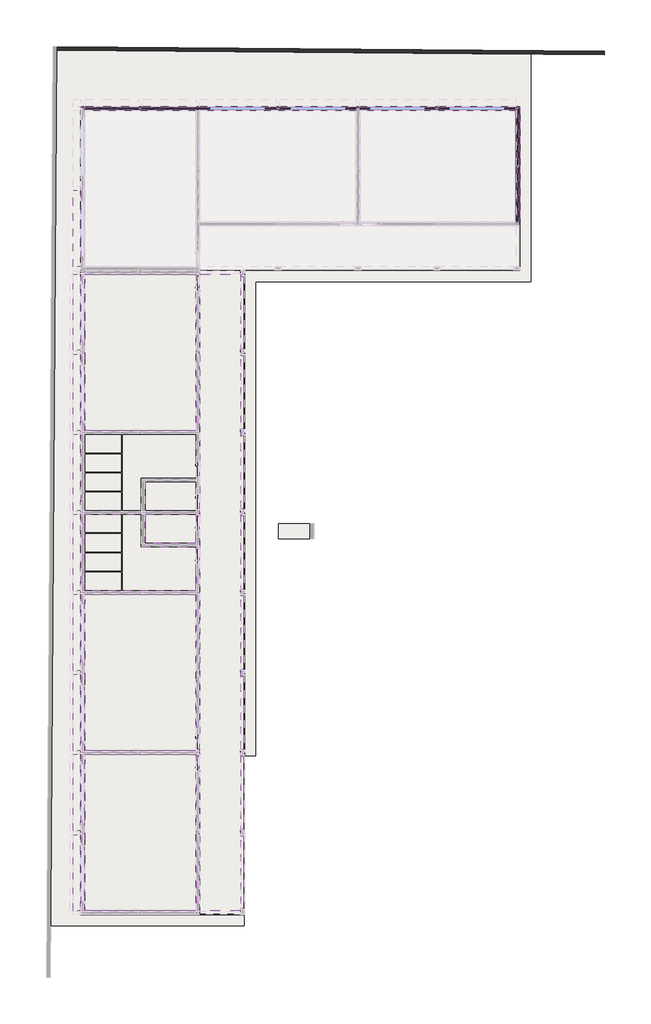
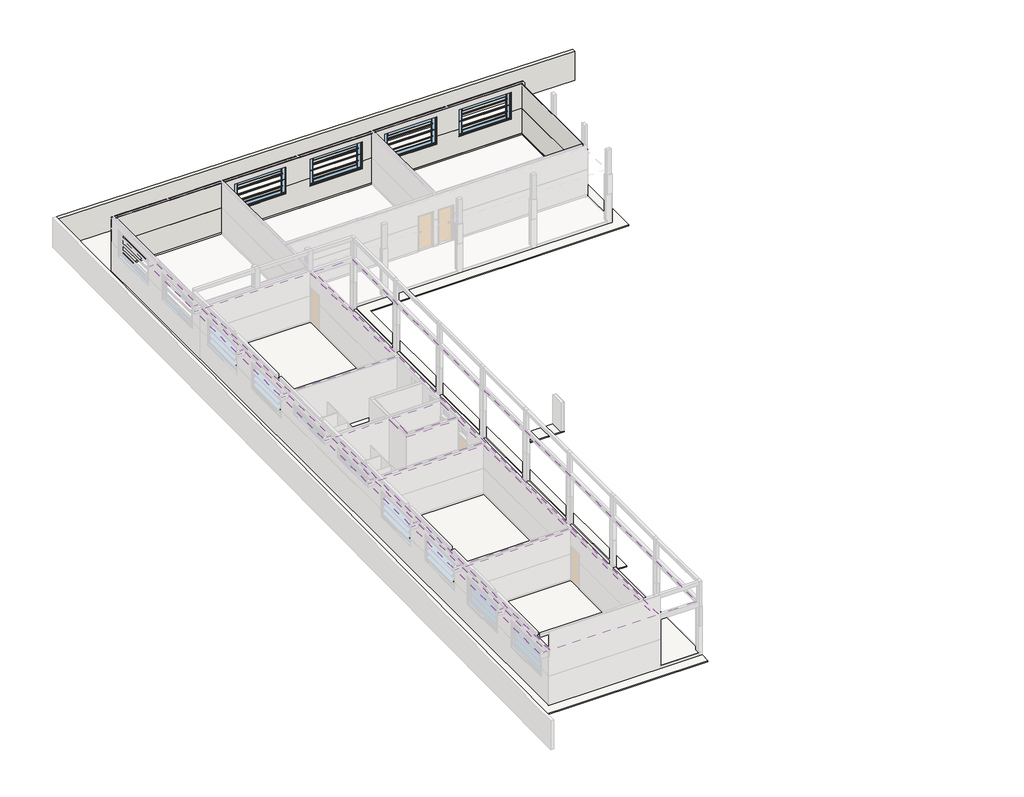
# One storey, part 7 of 11: 25 slabs, 25 walls, 15 coverings, 4 windows.
"""IFC4 building model written with IfcOpenShell, lengths in millimetres."""

from ifc_helpers import new_model, si_unit, frame, origin, place, context, project, spatial, polyline, outline, extrude, faceted_brep, transform, mapped, element, save
from components import window_9a90df48

model = new_model("IFC4")

# Units and contexts
model_context = context("Model", 3, world=origin())
ifc_project = project(units=[si_unit("LENGTHUNIT", "METRE", prefix="MILLI")], contexts=[model_context])

# Site, building, storey
site = spatial("IfcSite", under=ifc_project)
building = spatial("IfcBuilding", under=site)
storey = spatial("IfcBuildingStorey", under=building, Name="NÍVEL 1", Elevation=43.4413576)

# Coverings
placement = place(None, origin())
element("IfcCovering", 1, ObjectType="REVE.GSSO GESSO SARRAFEADO 1,0CM", at=placement, inside=storey, context=model_context, shape_type="SweptSolid", body=[
    extrude(outline(polyline([(9102.3574069, -18027.9280358), (9102.3574069, -26427.9280358), (3102.3574069, -26427.9280358), (3102.3574069, -18027.9280358), (9102.3574069, -18027.9280358)])), frame((0.0, 0.0, 3043.4413576), z_axis=(0.0, 0.0, 1.0), x_axis=(1.0, 0.0, 0.0)), (0.0, 0.0, 1.0), 5.0),
])
element("IfcCovering", 2, ObjectType="REVE.GSSO GESSO SARRAFEADO 1,0CM", at=placement, inside=storey, context=model_context, shape_type="SweptSolid", body=[
    extrude(outline(polyline([(3102.3574069, -9427.9280358), (9102.3574069, -9427.9280358), (9102.3574069, -17827.9280358), (3102.3574069, -17827.9280358), (3102.3574069, -9427.9280358)])), frame((0.0, 0.0, 3043.4413576), z_axis=(0.0, 0.0, 1.0), x_axis=(1.0, 0.0, 0.0)), (0.0, 0.0, 1.0), 5.0),
])
element("IfcCovering", 3, ObjectType="REVE.GSSO GESSO SARRAFEADO 1,0CM", at=placement, inside=storey, context=model_context, shape_type="SweptSolid", body=[
    extrude(outline(polyline([(3102.3574069, 7772.0719642), (9102.3574069, 7772.0719642), (9102.3574069, -627.9280358), (3102.3574069, -627.9280358), (3102.3574069, 7772.0719642)])), frame((0.0, 0.0, 3043.4413576), z_axis=(0.0, 0.0, 1.0), x_axis=(1.0, 0.0, 0.0)), (0.0, 0.0, 1.0), 5.0),
])
element("IfcCovering", 4, ObjectType="REVE.GSSO GESSO SARRAFEADO 1,0CM", at=placement, inside=storey, context=model_context, shape_type="SweptSolid", body=[
    extrude(outline(polyline([(11502.3574069, 7772.0719642), (11502.3574069, -26427.9280358), (9302.3574069, -26427.9280358), (9302.3574069, 7772.0719642), (11502.3574069, 7772.0719642)])), frame((0.0, 0.0, 3043.4413576), z_axis=(0.0, 0.0, 1.0), x_axis=(1.0, 0.0, 0.0)), (0.0, 0.0, 1.0), 5.0),
])
element("IfcCovering", 5, ObjectType="REVE.GSSO GESSO SARRAFEADO 1,0CM", at=placement, inside=storey, context=model_context, shape_type="SweptSolid", body=[
    extrude(outline(polyline([(2902.3574069, 12272.0719642), (2902.3574069, 8172.0719642), (2502.3574069, 8172.0719642), (2502.3574069, 12272.0719642), (2902.3574069, 12272.0719642)])), frame((0.0, 0.0, 3043.4413576), z_axis=(0.0, 0.0, 1.0), x_axis=(1.0, 0.0, 0.0)), (0.0, 0.0, 1.0), 5.0),
])
element("IfcCovering", 6, ObjectType="REVE.GSSO GESSO SARRAFEADO 1,0CM", at=placement, inside=storey, context=model_context, shape_type="SweptSolid", body=[
    extrude(outline(polyline([(2902.3574069, 7772.0719642), (2902.3574069, 3672.0719642), (2502.3574069, 3672.0719642), (2502.3574069, 7772.0719642), (2902.3574069, 7772.0719642)])), frame((0.0, 0.0, 3043.4413576), z_axis=(0.0, 0.0, 1.0), x_axis=(1.0, 0.0, 0.0)), (0.0, 0.0, 1.0), 5.0),
])
element("IfcCovering", 7, ObjectType="REVE.GSSO GESSO SARRAFEADO 1,0CM", at=placement, inside=storey, context=model_context, shape_type="SweptSolid", body=[
    extrude(outline(polyline([(2902.3574069, 3472.0719642), (2902.3574069, -627.9280358), (2502.3574069, -627.9280358), (2502.3574069, 3472.0719642), (2902.3574069, 3472.0719642)])), frame((0.0, 0.0, 3043.4413576), z_axis=(0.0, 0.0, 1.0), x_axis=(1.0, 0.0, 0.0)), (0.0, 0.0, 1.0), 5.0),
])
element("IfcCovering", 8, ObjectType="REVE.GSSO GESSO SARRAFEADO 1,0CM", at=placement, inside=storey, context=model_context, shape_type="SweptSolid", body=[
    extrude(outline(polyline([(2902.3574069, -827.9280358), (2902.3574069, -4927.9280358), (2502.3574069, -4927.9280358), (2502.3574069, -827.9280358), (2902.3574069, -827.9280358)])), frame((0.0, 0.0, 3043.4413576), z_axis=(0.0, 0.0, 1.0), x_axis=(1.0, 0.0, 0.0)), (0.0, 0.0, 1.0), 5.0),
])
element("IfcCovering", 9, ObjectType="REVE.GSSO GESSO SARRAFEADO 1,0CM", at=placement, inside=storey, context=model_context, shape_type="SweptSolid", body=[
    extrude(outline(polyline([(2902.3574069, -5127.9280358), (2902.3574069, -9227.9280358), (2502.3574069, -9227.9280358), (2502.3574069, -5127.9280358), (2902.3574069, -5127.9280358)])), frame((0.0, 0.0, 3043.4413576), z_axis=(0.0, 0.0, 1.0), x_axis=(1.0, 0.0, 0.0)), (0.0, 0.0, 1.0), 5.0),
])
element("IfcCovering", 10, ObjectType="REVE.GSSO GESSO SARRAFEADO 1,0CM", at=placement, inside=storey, context=model_context, shape_type="SweptSolid", body=[
    extrude(outline(polyline([(2902.3574069, -9427.9280358), (2902.3574069, -13527.9280358), (2502.3574069, -13527.9280358), (2502.3574069, -9427.9280358), (2902.3574069, -9427.9280358)])), frame((0.0, 0.0, 3043.4413576), z_axis=(0.0, 0.0, 1.0), x_axis=(1.0, 0.0, 0.0)), (0.0, 0.0, 1.0), 5.0),
])
element("IfcCovering", 11, ObjectType="REVE.GSSO GESSO SARRAFEADO 1,0CM", at=placement, inside=storey, context=model_context, shape_type="SweptSolid", body=[
    extrude(outline(polyline([(2902.3574069, -13727.9280358), (2902.3574069, -17827.9280358), (2502.3574069, -17827.9280358), (2502.3574069, -13727.9280358), (2902.3574069, -13727.9280358)])), frame((0.0, 0.0, 3043.4413576), z_axis=(0.0, 0.0, 1.0), x_axis=(1.0, 0.0, 0.0)), (0.0, 0.0, 1.0), 5.0),
])
element("IfcCovering", 12, ObjectType="REVE.GSSO GESSO SARRAFEADO 1,0CM", at=placement, inside=storey, context=model_context, shape_type="SweptSolid", body=[
    extrude(outline(polyline([(2902.3574069, -18027.9280358), (2902.3574069, -22127.9280358), (2502.3574069, -22127.9280358), (2502.3574069, -18027.9280358), (2902.3574069, -18027.9280358)])), frame((0.0, 0.0, 3043.4413576), z_axis=(0.0, 0.0, 1.0), x_axis=(1.0, 0.0, 0.0)), (0.0, 0.0, 1.0), 5.0),
])
element("IfcCovering", 13, ObjectType="REVE.GSSO GESSO SARRAFEADO 1,0CM", at=placement, inside=storey, context=model_context, shape_type="SweptSolid", body=[
    extrude(outline(polyline([(2902.3574069, -22327.9280358), (2902.3574069, -26427.9280358), (2502.3574069, -26427.9280358), (2502.3574069, -22327.9280358), (2902.3574069, -22327.9280358)])), frame((0.0, 0.0, 3043.4413576), z_axis=(0.0, 0.0, 1.0), x_axis=(1.0, 0.0, 0.0)), (0.0, 0.0, 1.0), 5.0),
])
element("IfcCovering", 14, ObjectType="REVE.GSSO GESSO SARRAFEADO 1,0CM", at=placement, inside=storey, context=model_context, shape_type="SweptSolid", body=[
    extrude(outline(polyline([(3102.3574069, -5127.9280358), (6152.3574069, -5127.9280358), (6152.3574069, -6877.9280358), (9102.3574069, -6877.9280358), (9102.3574069, -9227.9280358), (3102.3574069, -9227.9280358), (3102.3574069, -5127.9280358)])), frame((0.0, 0.0, 3043.4413576), z_axis=(0.0, 0.0, 1.0), x_axis=(1.0, 0.0, 0.0)), (0.0, 0.0, 1.0), 5.0),
])
element("IfcCovering", 15, ObjectType="REVE.GSSO GESSO SARRAFEADO 1,0CM", at=placement, inside=storey, context=model_context, shape_type="SweptSolid", body=[
    extrude(outline(polyline([(6352.3574069, -5127.9280358), (9102.3574069, -5127.9280358), (9102.3574069, -6677.9280358), (6352.3574069, -6677.9280358), (6352.3574069, -5127.9280358)])), frame((0.0, 0.0, 3043.4413576), z_axis=(0.0, 0.0, 1.0), x_axis=(1.0, 0.0, 0.0)), (0.0, 0.0, 1.0), 5.0),
])

# Slabs
element("IfcSlab", 16, ObjectType="PISO.RGCP CONTRAPISO 3CM", at=placement, inside=storey, context=model_context, shape_type="SweptSolid", body=[
    extrude(outline(polyline([(11532.3574069, 7802.0719642), (11532.3574069, -26457.9280358), (9272.3574069, -26457.9280358), (9272.3574069, 7802.0719642), (11532.3574069, 7802.0719642)])), frame((0.0, 0.0, -6.5586424), z_axis=(0.0, 0.0, 1.0), x_axis=(1.0, 0.0, 0.0)), (0.0, 0.0, 1.0), 30.0),
])
element("IfcSlab", 17, ObjectType="PISO.RGCP CONTRAPISO 3CM", at=placement, inside=storey, context=model_context, shape_type="SweptSolid", body=[
    extrude(outline(polyline([(9132.3574069, -17997.9280358), (9132.3574069, -26457.9280358), (3072.3574069, -26457.9280358), (3072.3574069, -17997.9280358), (9132.3574069, -17997.9280358)])), frame((0.0, 0.0, 13.4413576), z_axis=(0.0, 0.0, 1.0), x_axis=(1.0, 0.0, 0.0)), (0.0, 0.0, 1.0), 30.0),
])
element("IfcSlab", 18, ObjectType="PISO.RGCP CONTRAPISO 3CM", at=placement, inside=storey, context=model_context, shape_type="SweptSolid", body=[
    extrude(outline(polyline([(9132.3574069, -9397.9280358), (9132.3574069, -17857.9280358), (3072.3574069, -17857.9280358), (3072.3574069, -9397.9280358), (9132.3574069, -9397.9280358)])), frame((0.0, 0.0, 13.4413576), z_axis=(0.0, 0.0, 1.0), x_axis=(1.0, 0.0, 0.0)), (0.0, 0.0, 1.0), 30.0),
])
element("IfcSlab", 19, ObjectType="PISO.RGCP CONTRAPISO 3CM", at=placement, inside=storey, context=model_context, shape_type="SweptSolid", body=[
    extrude(outline(polyline([(9132.3574069, 7802.0719642), (9132.3574069, -657.9280358), (3072.3574069, -657.9280358), (3072.3574069, 7802.0719642), (9132.3574069, 7802.0719642)])), frame((0.0, 0.0, 13.4413576), z_axis=(0.0, 0.0, 1.0), x_axis=(1.0, 0.0, 0.0)), (0.0, 0.0, 1.0), 30.0),
])
element("IfcSlab", 20, ObjectType="PISO.RGCP CONTRAPISO 3CM", at=placement, inside=storey, context=model_context, shape_type="SweptSolid", body=[
    extrude(outline(polyline([(9132.3574069, -797.9280358), (9132.3574069, -3207.9280358), (6182.3574069, -3207.9280358), (6182.3574069, -4957.9280358), (3072.3574069, -4957.9280358), (3072.3574069, -797.9280358), (9132.3574069, -797.9280358)])), frame((0.0, 0.0, 13.4413576), z_axis=(0.0, 0.0, 1.0), x_axis=(1.0, 0.0, 0.0)), (0.0, 0.0, 1.0), 30.0),
])
element("IfcSlab", 21, ObjectType="PISO.RGCP CONTRAPISO 3CM", at=placement, inside=storey, context=model_context, shape_type="SweptSolid", body=[
    extrude(outline(polyline([(9132.3574069, -4957.9280358), (6322.3574069, -4957.9280358), (6322.3574069, -3347.9280358), (9132.3574069, -3347.9280358), (9132.3574069, -4957.9280358)])), frame((0.0, 0.0, 13.4413576), z_axis=(0.0, 0.0, 1.0), x_axis=(1.0, 0.0, 0.0)), (0.0, 0.0, 1.0), 30.0),
])
element("IfcSlab", 22, ObjectType="PISO.RGCP CONTRAPISO 3CM", at=placement, inside=storey, context=model_context, shape_type="SweptSolid", body=[
    extrude(outline(polyline([(6182.3574069, -5097.9280358), (6182.3574069, -6847.9280358), (9132.3574069, -6847.9280358), (9132.3574069, -9257.9280358), (3072.3574069, -9257.9280358), (3072.3574069, -5097.9280358), (6182.3574069, -5097.9280358)])), frame((0.0, 0.0, 13.4413576), z_axis=(0.0, 0.0, 1.0), x_axis=(1.0, 0.0, 0.0)), (0.0, 0.0, 1.0), 30.0),
])
element("IfcSlab", 23, ObjectType="PISO.RGCP CONTRAPISO 3CM", at=placement, inside=storey, context=model_context, shape_type="SweptSolid", body=[
    extrude(outline(polyline([(9132.3574069, -5097.9280358), (9132.3574069, -6707.9280358), (6322.3574069, -6707.9280358), (6322.3574069, -5097.9280358), (9132.3574069, -5097.9280358)])), frame((0.0, 0.0, 13.4413576), z_axis=(0.0, 0.0, 1.0), x_axis=(1.0, 0.0, 0.0)), (0.0, 0.0, 1.0), 30.0),
])
element("IfcSlab", 24, ObjectType="GRANILITE", at=placement, inside=storey, context=model_context, shape_type="SweptSolid", body=[
    extrude(outline(polyline([(9132.3574069, -26457.9280358), (3072.3574069, -26457.9280358), (3072.3574069, -17997.9280358), (9132.3574069, -17997.9280358), (9132.3574069, -26457.9280358)])), frame((0.0, 0.0, 43.4413576), z_axis=(0.0, 0.0, 1.0), x_axis=(1.0, 0.0, 0.0)), (0.0, 0.0, 1.0), 20.0),
])
element("IfcSlab", 25, ObjectType="GRANILITE", at=placement, inside=storey, context=model_context, shape_type="SweptSolid", body=[
    extrude(outline(polyline([(11532.3574069, -26597.9280358), (9272.3574069, -26597.9280358), (9272.3574069, 7942.0719642), (11532.3574069, 7942.0719642), (11532.3574069, 7682.0719642), (11672.3574069, 7682.0719642), (11672.3574069, 3702.0719642), (11532.3574069, 3702.0719642), (11532.3574069, 3442.0719642), (11672.3574069, 3442.0719642), (11672.3574069, -597.9280358), (11532.3574069, -597.9280358), (11532.3574069, -857.9280358), (11672.3574069, -857.9280358), (11672.3574069, -4897.9280358), (11532.3574069, -4897.9280358), (11532.3574069, -5157.9280358), (11672.3574069, -5157.9280358), (11672.3574069, -9197.9280358), (11532.3574069, -9197.9280358), (11532.3574069, -9457.9280358), (11672.3574069, -9457.9280358), (11672.3574069, -13497.9280358), (11532.3574069, -13497.9280358), (11532.3574069, -13757.9280358), (11672.3574069, -13757.9280358), (11672.3574069, -17797.9280358), (11532.3574069, -17797.9280358), (11532.3574069, -18057.9280358), (11672.3574069, -18057.9280358), (11672.3574069, -22097.9280358), (11532.3574069, -22097.9280358), (11532.3574069, -22357.9280358), (11672.3574069, -22357.9280358), (11672.3574069, -26337.9280358), (11532.3574069, -26337.9280358), (11532.3574069, -26597.9280358)])), frame((0.0, 0.0, 23.4413576), z_axis=(0.0, 0.0, 1.0), x_axis=(1.0, 0.0, 0.0)), (0.0, 0.0, 1.0), 20.0),
])
element("IfcSlab", 26, ObjectType="GRANILITE", at=placement, inside=storey, context=model_context, shape_type="SweptSolid", body=[
    extrude(outline(polyline([(9132.3574069, -9397.9280358), (9132.3574069, -17857.9280358), (3072.3574069, -17857.9280358), (3072.3574069, -9397.9280358), (9132.3574069, -9397.9280358)])), frame((0.0, 0.0, 43.4413576), z_axis=(0.0, 0.0, 1.0), x_axis=(1.0, 0.0, 0.0)), (0.0, 0.0, 1.0), 20.0),
])
element("IfcSlab", 27, ObjectType="PISO.CINT REVESTIMENTO CERÂMICO TIPO GRÊS 60X60", at=placement, inside=storey, context=model_context, shape_type="SweptSolid", body=[
    extrude(outline(polyline([(9132.3574069, -4957.9280358), (6322.3574069, -4957.9280358), (6322.3574069, -3347.9280358), (9132.3574069, -3347.9280358), (9132.3574069, -4957.9280358)])), frame((0.0, 0.0, 43.4413576), z_axis=(0.0, 0.0, 1.0), x_axis=(1.0, 0.0, 0.0)), (0.0, 0.0, 1.0), 20.0),
])
element("IfcSlab", 28, ObjectType="PISO.CINT REVESTIMENTO CERÂMICO TIPO GRÊS 60X60", at=placement, inside=storey, context=model_context, shape_type="SweptSolid", body=[
    extrude(outline(polyline([(9132.3574069, -5097.9280358), (9132.3574069, -6707.9280358), (6322.3574069, -6707.9280358), (6322.3574069, -5097.9280358), (9132.3574069, -5097.9280358)])), frame((0.0, 0.0, 43.4413576), z_axis=(0.0, 0.0, 1.0), x_axis=(1.0, 0.0, 0.0)), (0.0, 0.0, 1.0), 20.0),
])
element("IfcSlab", 29, ObjectType="PISO.CINT REVESTIMENTO CERÂMICO TIPO GRÊS 60X60", at=placement, inside=storey, context=model_context, shape_type="SweptSolid", body=[
    extrude(outline(polyline([(6182.3574069, -5097.9280358), (6182.3574069, -6847.9280358), (9132.3574069, -6847.9280358), (9132.3574069, -9257.9280358), (3072.3574069, -9257.9280358), (3072.3574069, -5097.9280358), (6182.3574069, -5097.9280358)])), frame((0.0, 0.0, 43.4413576), z_axis=(0.0, 0.0, 1.0), x_axis=(1.0, 0.0, 0.0)), (0.0, 0.0, 1.0), 20.0),
])
element("IfcSlab", 30, ObjectType="PISO.CINT REVESTIMENTO CERÂMICO TIPO GRÊS 60X60", at=placement, inside=storey, context=model_context, shape_type="SweptSolid", body=[
    extrude(outline(polyline([(6182.3574069, -4957.9280358), (3072.3574069, -4957.9280358), (3072.3574069, -797.9280358), (9132.3574069, -797.9280358), (9132.3574069, -3207.9280358), (6182.3574069, -3207.9280358), (6182.3574069, -4957.9280358)])), frame((0.0, 0.0, 43.4413576), z_axis=(0.0, 0.0, 1.0), x_axis=(1.0, 0.0, 0.0)), (0.0, 0.0, 1.0), 20.0),
])
element("IfcSlab", 31, ObjectType="GRANILITE", at=placement, inside=storey, context=model_context, shape_type="SweptSolid", body=[
    extrude(outline(polyline([(9132.3574069, 7802.0719642), (9132.3574069, -657.9280358), (3072.3574069, -657.9280358), (3072.3574069, 7802.0719642), (9132.3574069, 7802.0719642)])), frame((0.0, 0.0, 43.4413576), z_axis=(0.0, 0.0, 1.0), x_axis=(1.0, 0.0, 0.0)), (0.0, 0.0, 1.0), 20.0),
])
element("IfcSlab", 32, ObjectType="SOLEIRA EM GRANITO CINZA ANDORINHA", at=placement, inside=storey, context=model_context, shape_type="SweptSolid", body=[
    extrude(outline(polyline([(9272.3574069, -18077.9280358), (9272.3574069, -18917.9280358), (9132.3574069, -18917.9280358), (9132.3574069, -18077.9280358), (9272.3574069, -18077.9280358)])), frame((0.0, 0.0, 43.4413576), z_axis=(0.0, 0.0, 1.0), x_axis=(1.0, 0.0, 0.0)), (0.0, 0.0, 1.0), 20.0),
])
element("IfcSlab", 33, ObjectType="Passeio em concreto ESP = 6 cm", at=placement, inside=storey, context=model_context, shape_type="SweptSolid", body=[
    extrude(outline(polyline([(1271.0982503, -27227.9280358), (1614.7527982, 19804.5919128), (27102.3574069, 19581.8775567), (27102.3574069, 7372.0719642), (12302.3574069, 7372.0719642), (12302.3574069, -18087.9280358), (11672.3574069, -18087.9280358), (11672.3574069, 8002.0719642), (26472.3574069, 8002.0719642), (26472.3574069, 16742.0719642), (2932.3574069, 16742.0719642), (2932.3574069, -26597.9280358), (11672.3574069, -26597.9280358), (11672.3574069, -27227.9280358), (1271.0982503, -27227.9280358)])), frame((0.0, 0.0, -166.5586424), z_axis=(0.0, 0.0, 1.0), x_axis=(1.0, 0.0, 0.0)), (0.0, 0.0, 1.0), 60.0),
])
element("IfcSlab", 34, ObjectType="SOLEIRA EM GRANITO CINZA ANDORINHA", at=placement, inside=storey, context=model_context, shape_type="SweptSolid", body=[
    extrude(outline(polyline([(9272.3574069, -16937.9280358), (9272.3574069, -17777.9280358), (9132.3574069, -17777.9280358), (9132.3574069, -16937.9280358), (9272.3574069, -16937.9280358)])), frame((0.0, 0.0, 43.4413576), z_axis=(0.0, 0.0, 1.0), x_axis=(1.0, 0.0, 0.0)), (0.0, 0.0, 1.0), 20.0),
])
element("IfcSlab", 35, ObjectType="SOLEIRA EM GRANITO CINZA ANDORINHA", at=placement, inside=storey, context=model_context, shape_type="SweptSolid", body=[
    extrude(outline(polyline([(9272.3574069, -6957.9280358), (9272.3574069, -7797.9280358), (9132.3574069, -7797.9280358), (9132.3574069, -6957.9280358), (9272.3574069, -6957.9280358)])), frame((0.0, 0.0, 43.4413576), z_axis=(0.0, 0.0, 1.0), x_axis=(1.0, 0.0, 0.0)), (0.0, 0.0, 1.0), 20.0),
])
element("IfcSlab", 36, ObjectType="SOLEIRA EM GRANITO CINZA ANDORINHA", at=placement, inside=storey, context=model_context, shape_type="SweptSolid", body=[
    extrude(outline(polyline([(9272.3574069, -5177.9280358), (9272.3574069, -6017.9280358), (9132.3574069, -6017.9280358), (9132.3574069, -5177.9280358), (9272.3574069, -5177.9280358)])), frame((0.0, 0.0, 43.4413576), z_axis=(0.0, 0.0, 1.0), x_axis=(1.0, 0.0, 0.0)), (0.0, 0.0, 1.0), 20.0),
])
element("IfcSlab", 37, ObjectType="SOLEIRA EM GRANITO CINZA ANDORINHA", at=placement, inside=storey, context=model_context, shape_type="SweptSolid", body=[
    extrude(outline(polyline([(9272.3574069, -4037.9280358), (9272.3574069, -4877.9280358), (9132.3574069, -4877.9280358), (9132.3574069, -4037.9280358), (9272.3574069, -4037.9280358)])), frame((0.0, 0.0, 43.4413576), z_axis=(0.0, 0.0, 1.0), x_axis=(1.0, 0.0, 0.0)), (0.0, 0.0, 1.0), 20.0),
])
element("IfcSlab", 38, ObjectType="SOLEIRA EM GRANITO CINZA ANDORINHA", at=placement, inside=storey, context=model_context, shape_type="SweptSolid", body=[
    extrude(outline(polyline([(9272.3574069, -2287.9280358), (9272.3574069, -3127.9280358), (9132.3574069, -3127.9280358), (9132.3574069, -2287.9280358), (9272.3574069, -2287.9280358)])), frame((0.0, 0.0, 43.4413576), z_axis=(0.0, 0.0, 1.0), x_axis=(1.0, 0.0, 0.0)), (0.0, 0.0, 1.0), 20.0),
])
element("IfcSlab", 39, ObjectType="SOLEIRA EM GRANITO CINZA ANDORINHA", at=placement, inside=storey, context=model_context, shape_type="SweptSolid", body=[
    extrude(outline(polyline([(9272.3574069, 7722.0719642), (9272.3574069, 6882.0719642), (9132.3574069, 6882.0719642), (9132.3574069, 7722.0719642), (9272.3574069, 7722.0719642)])), frame((0.0, 0.0, 43.4413576), z_axis=(0.0, 0.0, 1.0), x_axis=(1.0, 0.0, 0.0)), (0.0, 0.0, 1.0), 20.0),
])
element("IfcSlab", 40, ObjectType="Passeio em concreto ESP = 6 cm", at=placement, inside=storey, context=model_context, shape_type="SweptSolid", body=[
    extrude(outline(polyline([(15432.3574069, -5647.9280358), (15432.3574069, -6447.9280358), (13532.3574069, -6447.9280358), (13532.3574069, -5647.9280358), (15432.3574069, -5647.9280358)])), frame((0.0, 0.0, -166.5586424), z_axis=(0.0, 0.0, 1.0), x_axis=(1.0, 0.0, 0.0)), (0.0, 0.0, 1.0), 60.0),
])

# Walls
element("IfcWall", 41, ObjectType="PARE.ALVE ALVENARIA DE BLOCOS CERÂMICOS FURADOS NA HORIZONTAL 14X9X19", at=placement, inside=storey, context=model_context, shape_type="SweptSolid", body=[
    extrude(outline(polyline([(26472.3574069, 13442.0719642), (26472.3574069, 10662.0719642), (26332.3574069, 10662.0719642), (26332.3574069, 13442.0719642), (26472.3574069, 13442.0719642)])), frame((0.0, 0.0, 43.4413576), z_axis=(0.0, 0.0, 1.0), x_axis=(1.0, 0.0, 0.0)), (0.0, 0.0, 1.0), 2800.0),
])
element("IfcWall", 42, ObjectType="PARE.ALVE ALVENARIA DE BLOCOS CERÂMICOS FURADOS NA HORIZONTAL 14X9X19", at=placement, inside=storey, context=model_context, shape_type="Brep", body=[
    faceted_brep([(26472.3574069, 13702.0719642, 43.4413576), (26472.3574069, 16602.0719642, 43.4413576), (26472.3574069, 16602.0719642, 2843.4413576), (26472.3574069, 13702.0719642, 2843.4413576), (26332.3574069, 13702.0719642, 43.4413576), (26332.3574069, 13702.0719642, 2843.4413576), (26332.3574069, 16602.0719642, 2843.4413576), (26332.3574069, 16602.0719642, 1663.4413576), (26332.3574069, 16602.0719642, 163.4413576), (26332.3574069, 16602.0719642, 43.4413576)], [[[0, 1, 2, 3]], [[4, 5, 6, 7, 8, 9]], [[1, 0, 4, 9]], [[3, 2, 6, 5]], [[0, 3, 5, 4]], [[1, 9, 8, 7, 6, 2]]]),
])
element("IfcWall", 43, ObjectType="PARE.ALVE ALVENARIA DE BLOCOS CERÂMICOS FURADOS NA HORIZONTAL 14X9X19", at=placement, inside=storey, context=model_context, shape_type="SweptSolid", body=[
    extrude(outline(polyline([(22172.3574069, 16742.0719642), (26212.3574069, 16742.0719642), (26212.3574069, 16602.0719642), (22172.3574069, 16602.0719642), (22172.3574069, 16742.0719642)])), frame((0.0, 0.0, 43.4413576), z_axis=(0.0, 0.0, 1.0), x_axis=(1.0, 0.0, 0.0)), (0.0, 0.0, 1.0), 960.0),
    extrude(outline(polyline([(22172.3574069, 16602.0719642), (22172.3574069, 16742.0719642), (22692.3574069, 16742.0719642), (22692.3574069, 16602.0719642), (22172.3574069, 16602.0719642)])), frame((0.0, 0.0, 1203.4413576), z_axis=(0.0, 0.0, 1.0), x_axis=(1.0, 0.0, 0.0)), (0.0, 0.0, 1.0), 1640.0),
    extrude(outline(polyline([(26212.3574069, 16742.0719642), (26212.3574069, 16602.0719642), (25692.3574069, 16602.0719642), (25692.3574069, 16742.0719642), (26212.3574069, 16742.0719642)])), frame((0.0, 0.0, 1203.4413576), z_axis=(0.0, 0.0, 1.0), x_axis=(1.0, 0.0, 0.0)), (0.0, 0.0, 1.0), 1640.0),
])
element("IfcWall", 44, ObjectType="PARE.ALVE ALVENARIA DE BLOCOS CERÂMICOS FURADOS NA HORIZONTAL 14X9X19", at=placement, inside=storey, context=model_context, shape_type="SweptSolid", body=[
    extrude(outline(polyline([(17932.3574069, 16742.0719642), (21912.3574069, 16742.0719642), (21912.3574069, 16602.0719642), (17932.3574069, 16602.0719642), (17932.3574069, 16742.0719642)])), frame((0.0, 0.0, 43.4413576), z_axis=(0.0, 0.0, 1.0), x_axis=(1.0, 0.0, 0.0)), (0.0, 0.0, 1.0), 960.0),
    extrude(outline(polyline([(21912.3574069, 16742.0719642), (21912.3574069, 16602.0719642), (21422.3574069, 16602.0719642), (21422.3574069, 16742.0719642), (21912.3574069, 16742.0719642)])), frame((0.0, 0.0, 1203.4413576), z_axis=(0.0, 0.0, 1.0), x_axis=(1.0, 0.0, 0.0)), (0.0, 0.0, 1.0), 1640.0),
    extrude(outline(polyline([(17932.3574069, 16602.0719642), (17932.3574069, 16742.0719642), (18422.3574069, 16742.0719642), (18422.3574069, 16602.0719642), (17932.3574069, 16602.0719642)])), frame((0.0, 0.0, 1203.4413576), z_axis=(0.0, 0.0, 1.0), x_axis=(1.0, 0.0, 0.0)), (0.0, 0.0, 1.0), 1640.0),
])
element("IfcWall", 45, ObjectType="PARE.ALVE ALVENARIA DE BLOCOS CERÂMICOS FURADOS NA HORIZONTAL 14X9X19", at=placement, inside=storey, context=model_context, shape_type="SweptSolid", body=[
    extrude(outline(polyline([(13632.3574069, 16742.0719642), (17672.3574069, 16742.0719642), (17672.3574069, 16602.0719642), (13632.3574069, 16602.0719642), (13632.3574069, 16742.0719642)])), frame((0.0, 0.0, 43.4413576), z_axis=(0.0, 0.0, 1.0), x_axis=(1.0, 0.0, 0.0)), (0.0, 0.0, 1.0), 960.0),
    extrude(outline(polyline([(13632.3574069, 16602.0719642), (13632.3574069, 16742.0719642), (14152.3574069, 16742.0719642), (14152.3574069, 16602.0719642), (13632.3574069, 16602.0719642)])), frame((0.0, 0.0, 1203.4413576), z_axis=(0.0, 0.0, 1.0), x_axis=(1.0, 0.0, 0.0)), (0.0, 0.0, 1.0), 1640.0),
    extrude(outline(polyline([(17672.3574069, 16742.0719642), (17672.3574069, 16602.0719642), (17152.3574069, 16602.0719642), (17152.3574069, 16742.0719642), (17672.3574069, 16742.0719642)])), frame((0.0, 0.0, 1203.4413576), z_axis=(0.0, 0.0, 1.0), x_axis=(1.0, 0.0, 0.0)), (0.0, 0.0, 1.0), 1640.0),
])
element("IfcWall", 46, ObjectType="PARE.ALVE ALVENARIA DE BLOCOS CERÂMICOS FURADOS NA HORIZONTAL 14X9X19", at=placement, inside=storey, context=model_context, shape_type="Brep", body=[
    faceted_brep([(13372.3574069, 16742.0719642, 43.4413576), (9132.3574069, 16742.0719642, 43.4413576), (9132.3574069, 16742.0719642, 2843.4413576), (9822.3574069, 16742.0719642, 2843.4413576), (9822.3574069, 16742.0719642, 1203.4413576), (9272.3574069, 16742.0719642, 1203.4413576), (9272.3574069, 16742.0719642, 1003.4413576), (13372.3574069, 16742.0719642, 1003.4413576), (9132.3574069, 16602.0719642, 43.4413576), (9272.3574069, 16602.0719642, 43.4413576), (13372.3574069, 16602.0719642, 43.4413576), (13372.3574069, 16602.0719642, 1003.4413576), (9272.3574069, 16602.0719642, 1003.4413576), (9272.3574069, 16602.0719642, 1203.4413576), (9822.3574069, 16602.0719642, 1203.4413576), (9822.3574069, 16602.0719642, 2843.4413576), (9272.3574069, 16602.0719642, 2843.4413576), (9132.3574069, 16602.0719642, 2843.4413576)], [[[0, 1, 2, 3, 4, 5, 6, 7]], [[8, 9, 10, 11, 12, 13, 14, 15, 16, 17]], [[1, 0, 10, 9, 8]], [[2, 17, 16, 15, 3]], [[10, 0, 7, 11]], [[2, 1, 8, 17]], [[13, 5, 4, 14]], [[6, 12, 11, 7]], [[5, 13, 12, 6]], [[4, 3, 15, 14]]]),
    faceted_brep([(13372.3574069, 16742.0719642, 2843.4413576), (13372.3574069, 16742.0719642, 1203.4413576), (12822.3574069, 16742.0719642, 1203.4413576), (12822.3574069, 16742.0719642, 2843.4413576), (13372.3574069, 16602.0719642, 1203.4413576), (13372.3574069, 16602.0719642, 2843.4413576), (12822.3574069, 16602.0719642, 2843.4413576), (12822.3574069, 16602.0719642, 1203.4413576)], [[[0, 1, 2, 3]], [[4, 5, 6, 7]], [[5, 0, 3, 6]], [[0, 5, 4, 1]], [[1, 4, 7, 2]], [[3, 2, 7, 6]]]),
])
element("IfcWall", 47, ObjectType="PARE.ALVE ALVENARIA DE BLOCOS CERÂMICOS FURADOS NA HORIZONTAL 14X9X19", at=placement, inside=storey, context=model_context, shape_type="SweptSolid", body=[
    extrude(outline(polyline([(6232.3574069, 16742.0719642), (9012.3574069, 16742.0719642), (9012.3574069, 16602.0719642), (6232.3574069, 16602.0719642), (6232.3574069, 16742.0719642)])), frame((0.0, 0.0, 43.4413576), z_axis=(0.0, 0.0, 1.0), x_axis=(1.0, 0.0, 0.0)), (0.0, 0.0, 1.0), 2800.0),
])
element("IfcWall", 48, ObjectType="PARE.ALVE ALVENARIA DE BLOCOS CERÂMICOS FURADOS NA HORIZONTAL 14X9X19", at=placement, inside=storey, context=model_context, shape_type="SweptSolid", body=[
    extrude(outline(polyline([(3192.3574069, 16742.0719642), (5972.3574069, 16742.0719642), (5972.3574069, 16602.0719642), (3192.3574069, 16602.0719642), (3192.3574069, 16742.0719642)])), frame((0.0, 0.0, 43.4413576), z_axis=(0.0, 0.0, 1.0), x_axis=(1.0, 0.0, 0.0)), (0.0, 0.0, 1.0), 2800.0),
])
element("IfcWall", 49, ObjectType="RODAPÉ EM GRANILITE", at=placement, inside=storey, context=model_context, shape_type="Brep", body=[
    faceted_brep([(3072.3574069, 16572.0719642, 63.4413576), (3102.3574069, 16572.0719642, 63.4413576), (9102.3574069, 16572.0719642, 63.4413576), (9132.3574069, 16572.0719642, 63.4413576), (9132.3574069, 16572.0719642, 163.4413576), (9102.3574069, 16572.0719642, 163.4413576), (3102.3574069, 16572.0719642, 163.4413576), (3072.3574069, 16572.0719642, 163.4413576), (3072.3574069, 16602.0719642, 63.4413576), (3072.3574069, 16602.0719642, 163.4413576), (9132.3574069, 16602.0719642, 163.4413576), (9132.3574069, 16602.0719642, 63.4413576)], [[[0, 1, 2, 3, 4, 5, 6, 7]], [[8, 9, 10, 11]], [[3, 2, 1, 0, 8, 11]], [[7, 6, 5, 4, 10, 9]], [[0, 7, 9, 8]], [[4, 3, 11, 10]]]),
])
element("IfcWall", 50, ObjectType="RODAPÉ EM GRANILITE", at=placement, inside=storey, context=model_context, shape_type="Brep", body=[
    faceted_brep([(9272.3574069, 16572.0719642, 63.4413576), (9302.3574069, 16572.0719642, 63.4413576), (17702.3574069, 16572.0719642, 63.4413576), (17732.3574069, 16572.0719642, 63.4413576), (17732.3574069, 16572.0719642, 163.4413576), (17702.3574069, 16572.0719642, 163.4413576), (9302.3574069, 16572.0719642, 163.4413576), (9272.3574069, 16572.0719642, 163.4413576), (9272.3574069, 16602.0719642, 63.4413576), (9272.3574069, 16602.0719642, 163.4413576), (17732.3574069, 16602.0719642, 163.4413576), (17732.3574069, 16602.0719642, 63.4413576)], [[[0, 1, 2, 3, 4, 5, 6, 7]], [[8, 9, 10, 11]], [[3, 2, 1, 0, 8, 11]], [[7, 6, 5, 4, 10, 9]], [[4, 3, 11, 10]], [[0, 7, 9, 8]]]),
])
element("IfcWall", 51, ObjectType="RODAPÉ EM GRANILITE", at=placement, inside=storey, context=model_context, shape_type="Brep", body=[
    faceted_brep([(17872.3574069, 16572.0719642, 63.4413576), (17902.3574069, 16572.0719642, 63.4413576), (26302.3574069, 16572.0719642, 63.4413576), (26332.3574069, 16572.0719642, 63.4413576), (26332.3574069, 16572.0719642, 163.4413576), (26302.3574069, 16572.0719642, 163.4413576), (17902.3574069, 16572.0719642, 163.4413576), (17872.3574069, 16572.0719642, 163.4413576), (17872.3574069, 16602.0719642, 63.4413576), (17872.3574069, 16602.0719642, 163.4413576), (26332.3574069, 16602.0719642, 163.4413576), (26332.3574069, 16602.0719642, 63.4413576)], [[[0, 1, 2, 3, 4, 5, 6, 7]], [[8, 9, 10, 11]], [[3, 2, 1, 0, 8, 11]], [[7, 6, 5, 4, 10, 9]], [[4, 3, 11, 10]], [[0, 7, 9, 8]]]),
])
element("IfcWall", 52, ObjectType="RODAPÉ EM GRANILITE", at=placement, inside=storey, context=model_context, shape_type="Brep", body=[
    faceted_brep([(26302.3574069, 16572.0719642, 63.4413576), (26302.3574069, 10572.0719642, 63.4413576), (26302.3574069, 10542.0719642, 63.4413576), (26302.3574069, 10542.0719642, 163.4413576), (26302.3574069, 10572.0719642, 163.4413576), (26302.3574069, 16572.0719642, 163.4413576), (26332.3574069, 16572.0719642, 63.4413576), (26332.3574069, 16572.0719642, 163.4413576), (26332.3574069, 10542.0719642, 163.4413576), (26332.3574069, 10542.0719642, 63.4413576)], [[[0, 1, 2, 3, 4, 5]], [[6, 7, 8, 9]], [[2, 1, 0, 6, 9]], [[5, 4, 3, 8, 7]], [[3, 2, 9, 8]], [[0, 5, 7, 6]]]),
])
element("IfcWall", 53, ObjectType="MASSA ÚNICA PARA BARRADO", at=placement, inside=storey, context=model_context, shape_type="Brep", body=[
    faceted_brep([(3072.3574069, 16572.0719642, 163.4413576), (3102.3574069, 16572.0719642, 163.4413576), (9102.3574069, 16572.0719642, 163.4413576), (9132.3574069, 16572.0719642, 163.4413576), (9132.3574069, 16572.0719642, 1663.4413576), (9102.3574069, 16572.0719642, 1663.4413576), (3102.3574069, 16572.0719642, 1663.4413576), (3072.3574069, 16572.0719642, 1663.4413576), (3072.3574069, 16602.0719642, 163.4413576), (3072.3574069, 16602.0719642, 1663.4413576), (9132.3574069, 16602.0719642, 1663.4413576), (9132.3574069, 16602.0719642, 163.4413576)], [[[0, 1, 2, 3, 4, 5, 6, 7]], [[8, 9, 10, 11]], [[3, 2, 1, 0, 8, 11]], [[7, 6, 5, 4, 10, 9]], [[0, 7, 9, 8]], [[4, 3, 11, 10]]]),
])
element("IfcWall", 54, ObjectType="MASSA ÚNICA PARA BARRADO", at=placement, inside=storey, context=model_context, shape_type="Brep", body=[
    faceted_brep([(9272.3574069, 16572.0719642, 163.4413576), (9302.3574069, 16572.0719642, 163.4413576), (17702.3574069, 16572.0719642, 163.4413576), (17732.3574069, 16572.0719642, 163.4413576), (17732.3574069, 16572.0719642, 1663.4413576), (17702.3574069, 16572.0719642, 1663.4413576), (17152.3574069, 16572.0719642, 1663.4413576), (17152.3574069, 16572.0719642, 1203.4413576), (14152.5187152, 16572.0719642, 1203.4413576), (14152.5187152, 16572.0719642, 1663.4413576), (12822.5187152, 16572.0719642, 1663.4413576), (12822.5187152, 16572.0719642, 1203.4413576), (9822.3574069, 16572.0719642, 1203.4413576), (9822.3574069, 16572.0719642, 1663.4413576), (9302.3574069, 16572.0719642, 1663.4413576), (9272.3574069, 16572.0719642, 1663.4413576), (17732.3574069, 16602.0719642, 163.4413576), (9272.3574069, 16602.0719642, 163.4413576), (9272.3574069, 16602.0719642, 1663.4413576), (9822.3574069, 16602.0719642, 1663.4413576), (9822.3574069, 16602.0719642, 1203.4413576), (12822.5187152, 16602.0719642, 1203.4413576), (12822.5187152, 16602.0719642, 1663.4413576), (14152.5187152, 16602.0719642, 1663.4413576), (14152.5187152, 16602.0719642, 1203.4413576), (17152.3574069, 16602.0719642, 1203.4413576), (17152.3574069, 16602.0719642, 1663.4413576), (17732.3574069, 16602.0719642, 1663.4413576)], [[[0, 1, 2, 3, 4, 5, 6, 7, 8, 9, 10, 11, 12, 13, 14, 15]], [[16, 17, 18, 19, 20, 21, 22, 23, 24, 25, 26, 27]], [[3, 2, 1, 0, 17, 16]], [[4, 27, 26, 6, 5]], [[18, 15, 14, 13, 19]], [[22, 10, 9, 23]], [[4, 3, 16, 27]], [[0, 15, 18, 17]], [[11, 21, 20, 12]], [[12, 20, 19, 13]], [[21, 11, 10, 22]], [[7, 25, 24, 8]], [[8, 24, 23, 9]], [[25, 7, 6, 26]]]),
])
element("IfcWall", 55, ObjectType="MASSA ÚNICA PARA BARRADO", at=placement, inside=storey, context=model_context, shape_type="Brep", body=[
    faceted_brep([(17872.3574069, 16572.0719642, 163.4413576), (17902.3574069, 16572.0719642, 163.4413576), (26302.3574069, 16572.0719642, 163.4413576), (26332.3574069, 16572.0719642, 163.4413576), (26332.3574069, 16572.0719642, 1663.4413576), (26302.3574069, 16572.0719642, 1663.4413576), (25692.3574069, 16572.0719642, 1663.4413576), (25692.3574069, 16572.0719642, 1203.4413576), (22692.3343312, 16572.0719642, 1203.4413576), (22692.3343312, 16572.0719642, 1663.4413576), (21424.6998407, 16572.0719642, 1663.4413576), (21422.3343312, 16572.0719642, 1663.4413576), (21422.3343312, 16572.0719642, 1203.4413576), (18422.3574069, 16572.0719642, 1203.4413576), (18422.3574069, 16572.0719642, 1663.4413576), (17902.3574069, 16572.0719642, 1663.4413576), (17872.3574069, 16572.0719642, 1663.4413576), (26332.3574069, 16602.0719642, 163.4413576), (17872.3574069, 16602.0719642, 163.4413576), (17872.3574069, 16602.0719642, 1663.4413576), (18422.3574069, 16602.0719642, 1663.4413576), (18422.3574069, 16602.0719642, 1203.4413576), (21422.3343312, 16602.0719642, 1203.4413576), (21422.3343312, 16602.0719642, 1663.4413576), (21424.6998407, 16602.0719642, 1663.4413576), (22692.3343312, 16602.0719642, 1663.4413576), (22692.3343312, 16602.0719642, 1203.4413576), (25692.3574069, 16602.0719642, 1203.4413576), (25692.3574069, 16602.0719642, 1663.4413576), (26332.3574069, 16602.0719642, 1663.4413576)], [[[0, 1, 2, 3, 4, 5, 6, 7, 8, 9, 10, 11, 12, 13, 14, 15, 16]], [[17, 18, 19, 20, 21, 22, 23, 24, 25, 26, 27, 28, 29]], [[3, 2, 1, 0, 18, 17]], [[19, 16, 15, 14, 20]], [[4, 29, 28, 6, 5]], [[23, 11, 10, 9, 25, 24]], [[0, 16, 19, 18]], [[4, 3, 17, 29]], [[12, 22, 21, 13]], [[13, 21, 20, 14]], [[22, 12, 11, 23]], [[7, 27, 26, 8]], [[8, 26, 25, 9]], [[27, 7, 6, 28]]]),
])
element("IfcWall", 56, ObjectType="MASSA ÚNICA PARA BARRADO", at=placement, inside=storey, context=model_context, shape_type="Brep", body=[
    faceted_brep([(26302.3574069, 16572.0719642, 163.4413576), (26302.3574069, 10572.0719642, 163.4413576), (26302.3574069, 10542.0719642, 163.4413576), (26302.3574069, 10542.0719642, 1663.4413576), (26302.3574069, 10572.0719642, 1663.4413576), (26302.3574069, 16572.0719642, 1663.4413576), (26332.3574069, 16572.0719642, 163.4413576), (26332.3574069, 16572.0719642, 1663.4413576), (26332.3574069, 10542.0719642, 1663.4413576), (26332.3574069, 10542.0719642, 163.4413576)], [[[0, 1, 2, 3, 4, 5]], [[6, 7, 8, 9]], [[2, 1, 0, 6, 9]], [[5, 4, 3, 8, 7]], [[0, 5, 7, 6]], [[3, 2, 9, 8]]]),
])
element("IfcWall", 57, ObjectType="MASSA ÚNICA PARA LATEX", at=placement, inside=storey, context=model_context, shape_type="Brep", body=[
    faceted_brep([(3072.3574069, 16572.0719642, 1663.4413576), (3102.3574069, 16572.0719642, 1663.4413576), (9102.3574069, 16572.0719642, 1663.4413576), (9132.3574069, 16572.0719642, 1663.4413576), (9132.3574069, 16572.0719642, 3143.4413576), (9102.3574069, 16572.0719642, 3143.4413576), (3102.3574069, 16572.0719642, 3143.4413576), (3072.3574069, 16572.0719642, 3143.4413576), (3072.3574069, 16602.0719642, 1663.4413576), (3072.3574069, 16602.0719642, 3143.4413576), (9132.3574069, 16602.0719642, 3143.4413576), (9132.3574069, 16602.0719642, 1663.4413576)], [[[0, 1, 2, 3, 4, 5, 6, 7]], [[8, 9, 10, 11]], [[3, 2, 1, 0, 8, 11]], [[7, 6, 5, 4, 10, 9]], [[0, 7, 9, 8]], [[4, 3, 11, 10]]]),
])
element("IfcWall", 58, ObjectType="MASSA ÚNICA PARA LATEX", at=placement, inside=storey, context=model_context, shape_type="Brep", body=[
    faceted_brep([(17732.3574069, 16572.0719642, 1663.4413576), (17732.3574069, 16572.0719642, 3143.4413576), (17702.3574069, 16572.0719642, 3143.4413576), (9302.3574069, 16572.0719642, 3143.4413576), (9302.3574069, 16572.0719642, 1663.4413576), (9822.3574069, 16572.0719642, 1663.4413576), (9822.3574069, 16572.0719642, 2843.4413576), (12822.3235735, 16572.0719642, 2843.4413576), (12822.3235735, 16572.0719642, 1663.4413576), (14152.3235735, 16572.0719642, 1663.4413576), (14152.3235735, 16572.0719642, 2843.4413576), (17152.3574069, 16572.0719642, 2843.4413576), (17152.3574069, 16572.0719642, 1663.4413576), (17702.3574069, 16572.0719642, 1663.4413576), (17732.3574069, 16602.0719642, 3143.4413576), (17732.3574069, 16602.0719642, 1663.4413576), (17152.3574069, 16602.0719642, 1663.4413576), (17152.3574069, 16602.0719642, 2843.4413576), (14152.3235735, 16602.0719642, 2843.4413576), (14152.3235735, 16602.0719642, 1663.4413576), (12822.3235735, 16602.0719642, 1663.4413576), (12822.3235735, 16602.0719642, 2843.4413576), (9822.3574069, 16602.0719642, 2843.4413576), (9822.3574069, 16602.0719642, 1663.4413576), (9302.3574069, 16602.0719642, 1663.4413576), (9302.3574069, 16602.0719642, 3143.4413576)], [[[0, 1, 2, 3, 4, 5, 6, 7, 8, 9, 10, 11, 12, 13]], [[14, 15, 16, 17, 18, 19, 20, 21, 22, 23, 24, 25]], [[4, 24, 23, 5]], [[15, 0, 13, 12, 16]], [[8, 20, 19, 9]], [[3, 2, 1, 14, 25]], [[4, 3, 25, 24]], [[1, 0, 15, 14]], [[6, 22, 21, 7]], [[22, 6, 5, 23]], [[7, 21, 20, 8]], [[10, 18, 17, 11]], [[18, 10, 9, 19]], [[11, 17, 16, 12]]]),
])
element("IfcWall", 59, ObjectType="MASSA ÚNICA PARA LATEX", at=placement, inside=storey, context=model_context, shape_type="Brep", body=[
    faceted_brep([(26332.3574069, 16572.0719642, 1663.4413576), (26332.3574069, 16572.0719642, 3143.4413576), (26302.3574069, 16572.0719642, 3143.4413576), (17902.3574069, 16572.0719642, 3143.4413576), (17872.3574069, 16572.0719642, 3143.4413576), (17872.3574069, 16572.0719642, 1663.4413576), (17902.3574069, 16572.0719642, 1663.4413576), (18422.3574069, 16572.0719642, 1663.4413576), (18422.3574069, 16572.0719642, 2843.4413576), (21424.6998407, 16572.0719642, 2843.4413576), (21424.6998407, 16572.0719642, 1663.4413576), (22692.3397431, 16572.0719642, 1663.4413576), (22692.3397431, 16572.0719642, 2843.4413576), (25692.3574069, 16572.0719642, 2843.4413576), (25692.3574069, 16572.0719642, 1663.4413576), (26302.3574069, 16572.0719642, 1663.4413576), (26332.3574069, 16602.0719642, 3143.4413576), (26332.3574069, 16602.0719642, 2843.4413576), (26332.3574069, 16602.0719642, 1663.4413576), (25692.3574069, 16602.0719642, 1663.4413576), (25692.3574069, 16602.0719642, 2843.4413576), (22692.3397431, 16602.0719642, 2843.4413576), (22692.3397431, 16602.0719642, 1663.4413576), (21424.6998407, 16602.0719642, 1663.4413576), (21424.6998407, 16602.0719642, 2843.4413576), (18422.3574069, 16602.0719642, 2843.4413576), (18422.3574069, 16602.0719642, 1663.4413576), (17872.3574069, 16602.0719642, 1663.4413576), (17872.3574069, 16602.0719642, 3143.4413576)], [[[0, 1, 2, 3, 4, 5, 6, 7, 8, 9, 10, 11, 12, 13, 14, 15]], [[16, 17, 18, 19, 20, 21, 22, 23, 24, 25, 26, 27, 28]], [[18, 0, 15, 14, 19]], [[5, 27, 26, 7, 6]], [[10, 23, 22, 11]], [[4, 3, 2, 1, 16, 28]], [[1, 0, 18, 17, 16]], [[5, 4, 28, 27]], [[8, 25, 24, 9]], [[25, 8, 7, 26]], [[9, 24, 23, 10]], [[12, 21, 20, 13]], [[21, 12, 11, 22]], [[13, 20, 19, 14]]]),
])
element("IfcWall", 60, ObjectType="MASSA ÚNICA PARA LATEX", at=placement, inside=storey, context=model_context, shape_type="Brep", body=[
    faceted_brep([(26302.3574069, 16572.0719642, 1663.4413576), (26302.3574069, 10572.0719642, 1663.4413576), (26302.3574069, 10542.0719642, 1663.4413576), (26302.3574069, 10542.0719642, 3143.4413576), (26302.3574069, 10572.0719642, 3143.4413576), (26302.3574069, 16572.0719642, 3143.4413576), (26332.3574069, 16572.0719642, 1663.4413576), (26332.3574069, 16572.0719642, 3143.4413576), (26332.3574069, 10542.0719642, 3143.4413576), (26332.3574069, 10542.0719642, 2843.4413576), (26332.3574069, 10542.0719642, 1663.4413576)], [[[0, 1, 2, 3, 4, 5]], [[6, 7, 8, 9, 10]], [[2, 1, 0, 6, 10]], [[5, 4, 3, 8, 7]], [[0, 5, 7, 6]], [[3, 2, 10, 9, 8]]]),
])
element("IfcWall", 61, ObjectType="MASSA ÚNICA PARA BARRADO", at=placement, inside=storey, context=model_context, shape_type="SweptSolid", body=[
    extrude(outline(polyline([(-106.5586424, 2932.3574069), (-106.5586424, 26472.3574069), (1663.4413576, 26472.3574069), (1663.4413576, 25692.3574069), (1203.4413576, 25692.3574069), (1203.4413576, 22692.3402476), (1663.4413576, 22692.3402476), (1663.4413576, 21422.8324238), (1203.4413576, 21422.8324238), (1203.4413576, 18422.3721068), (1663.4413576, 18422.3721068), (1663.4413576, 17152.3721068), (1203.4413576, 17152.3721068), (1203.4413576, 14152.3346414), (1663.4413576, 14152.3346414), (1663.4413576, 12822.3346414), (1203.4413576, 12822.3346414), (1203.4413576, 9822.3611929), (1663.4413576, 9822.3611929), (1663.4413576, 2932.3574069), (-106.5586424, 2932.3574069)])), frame((0.0, 16742.0719642, 0.0), z_axis=(0.0, 1.0, 0.0), x_axis=(0.0, 0.0, 1.0)), (0.0, 0.0, 1.0), 30.0),
])
element("IfcWall", 62, ObjectType="MASSA ÚNICA PARA BARRADO", at=placement, inside=storey, context=model_context, shape_type="Brep", body=[
    faceted_brep([(26502.3574069, 10387.0719642, -106.5586424), (26502.3574069, 16772.0719642, -106.5586424), (26502.3574069, 16772.0719642, 1663.4413576), (26502.3574069, 10402.0719642, 1663.4413576), (26502.3574069, 10402.0719642, 143.4413576), (26502.3574069, 10372.0719642, 143.4413576), (26502.3574069, 10372.0719642, 43.4413576), (26502.3574069, 10387.0719642, 43.4413576), (26472.3574069, 10387.0719642, -106.5586424), (26472.3574069, 10387.0719642, 43.4413576), (26472.3574069, 10372.0719642, 43.4413576), (26472.3574069, 10372.0719642, 143.4413576), (26472.3574069, 10402.0719642, 143.4413576), (26472.3574069, 10402.0719642, 1663.4413576), (26472.3574069, 16742.0719642, 1663.4413576), (26472.3574069, 16772.0719642, 1663.4413576), (26472.3574069, 16772.0719642, -106.5586424), (26472.3574069, 16742.0719642, -106.5586424)], [[[0, 1, 2, 3, 4, 5, 6, 7]], [[8, 9, 10, 11, 12, 13, 14, 15, 16, 17]], [[1, 0, 8, 17, 16]], [[3, 2, 15, 14, 13]], [[2, 1, 16, 15]], [[0, 7, 9, 8]], [[6, 10, 9, 7]], [[4, 12, 11, 5]], [[6, 5, 11, 10]], [[4, 3, 13, 12]]]),
])
element("IfcWall", 63, ObjectType="MASSA ÚNICA SARRAFEADA PARA ACRILICO", at=placement, inside=storey, context=model_context, shape_type="Brep", body=[
    faceted_brep([(26502.3574069, 10402.0719642, 1663.4413576), (26502.3574069, 16772.0719642, 1663.4413576), (26502.3574069, 16772.0719642, 2843.4413576), (26502.3574069, 10402.0719642, 2843.4413576), (26472.3574069, 10402.0719642, 1663.4413576), (26472.3574069, 10402.0719642, 2843.4413576), (26472.3574069, 16772.0719642, 2843.4413576), (26472.3574069, 16772.0719642, 1663.4413576), (26472.3574069, 16742.0719642, 1663.4413576)], [[[0, 1, 2, 3]], [[4, 5, 6, 7, 8]], [[1, 0, 4, 8, 7]], [[3, 2, 6, 5]], [[0, 3, 5, 4]], [[2, 1, 7, 6]]]),
])
element("IfcWall", 64, ObjectType="MASSA ÚNICA SARRAFEADA PARA ACRILICO", at=placement, inside=storey, context=model_context, shape_type="Brep", body=[
    faceted_brep([(2902.3574069, 16772.0719642, 1663.4413576), (2902.3574069, 16772.0719642, 2843.4413576), (2902.3574069, 16772.0719642, 3143.4413576), (2932.3574069, 16772.0719642, 3143.4413576), (3072.3574069, 16772.0719642, 3143.4413576), (3102.3574069, 16772.0719642, 3143.4413576), (6002.3574069, 16772.0719642, 3143.4413576), (6032.3574069, 16772.0719642, 3143.4413576), (6172.3574069, 16772.0719642, 3143.4413576), (6202.3574069, 16772.0719642, 3143.4413576), (9102.3574069, 16772.0719642, 3143.4413576), (9132.3574069, 16772.0719642, 3143.4413576), (9272.3574069, 16772.0719642, 3143.4413576), (9302.3574069, 16772.0719642, 3143.4413576), (13402.3574069, 16772.0719642, 3143.4413576), (13432.3574069, 16772.0719642, 3143.4413576), (13572.3574069, 16772.0719642, 3143.4413576), (13602.3574069, 16772.0719642, 3143.4413576), (17702.3574069, 16772.0719642, 3143.4413576), (17732.3574069, 16772.0719642, 3143.4413576), (17872.3574069, 16772.0719642, 3143.4413576), (17902.3574069, 16772.0719642, 3143.4413576), (21942.3574069, 16772.0719642, 3143.4413576), (21972.3574069, 16772.0719642, 3143.4413576), (22112.3574069, 16772.0719642, 3143.4413576), (22142.3574069, 16772.0719642, 3143.4413576), (26472.3574069, 16772.0719642, 3143.4413576), (26472.3574069, 16772.0719642, 2843.4413576), (26472.3574069, 16772.0719642, 1663.4413576), (25692.3574069, 16772.0719642, 1663.4413576), (25692.3574069, 16772.0719642, 2843.4413576), (22692.5188195, 16772.0719642, 2843.4413576), (22692.5188195, 16772.0719642, 1663.4413576), (21422.5188195, 16772.0719642, 1663.4413576), (21422.5188195, 16772.0719642, 2843.4413576), (18422.3588498, 16772.0719642, 2843.4413576), (18422.3588498, 16772.0719642, 1663.4413576), (17152.3588498, 16772.0719642, 1663.4413576), (17152.3588498, 16772.0719642, 2843.4413576), (14152.3669838, 16772.0719642, 2843.4413576), (14152.3669838, 16772.0719642, 1663.4413576), (12822.3669838, 16772.0719642, 1663.4413576), (12822.3669838, 16772.0719642, 2843.4413576), (9822.3669838, 16772.0719642, 2843.4413576), (9822.3669838, 16772.0719642, 1663.4413576), (2902.3574069, 16742.0719642, 3143.4413576), (2902.3574069, 16742.0719642, 2843.4413576), (2902.3574069, 16742.0719642, 1663.4413576), (2932.3574069, 16742.0719642, 1663.4413576), (9822.3669838, 16742.0719642, 1663.4413576), (9822.3669838, 16742.0719642, 2843.4413576), (12822.3669838, 16742.0719642, 2843.4413576), (12822.3669838, 16742.0719642, 1663.4413576), (14152.3669838, 16742.0719642, 1663.4413576), (14152.3669838, 16742.0719642, 2843.4413576), (17152.3588498, 16742.0719642, 2843.4413576), (17152.3588498, 16742.0719642, 1663.4413576), (18422.3588498, 16742.0719642, 1663.4413576), (18422.3588498, 16742.0719642, 2843.4413576), (21422.5188195, 16742.0719642, 2843.4413576), (21422.5188195, 16742.0719642, 1663.4413576), (22692.5188195, 16742.0719642, 1663.4413576), (22692.5188195, 16742.0719642, 2843.4413576), (25692.3574069, 16742.0719642, 2843.4413576), (25692.3574069, 16742.0719642, 1663.4413576), (26472.3574069, 16742.0719642, 1663.4413576), (26472.3574069, 16742.0719642, 3143.4413576), (2932.3574069, 16742.0719642, 3143.4413576)], [[[0, 1, 2, 3, 4, 5, 6, 7, 8, 9, 10, 11, 12, 13, 14, 15, 16, 17, 18, 19, 20, 21, 22, 23, 24, 25, 26, 27, 28, 29, 30, 31, 32, 33, 34, 35, 36, 37, 38, 39, 40, 41, 42, 43, 44]], [[45, 46, 47, 48, 49, 50, 51, 52, 53, 54, 55, 56, 57, 58, 59, 60, 61, 62, 63, 64, 65, 66, 67]], [[28, 65, 64, 29]], [[47, 0, 44, 49, 48]], [[56, 37, 36, 57]], [[40, 53, 52, 41]], [[60, 33, 32, 61]], [[26, 25, 24, 23, 22, 21, 20, 19, 18, 17, 16, 15, 14, 13, 12, 11, 10, 9, 8, 7, 6, 5, 4, 3, 2, 45, 67, 66]], [[28, 27, 26, 66, 65]], [[30, 63, 62, 31]], [[63, 30, 29, 64]], [[31, 62, 61, 32]], [[34, 59, 58, 35]], [[59, 34, 33, 60]], [[35, 58, 57, 36]], [[38, 55, 54, 39]], [[55, 38, 37, 56]], [[39, 54, 53, 40]], [[42, 51, 50, 43]], [[51, 42, 41, 52]], [[43, 50, 49, 44]], [[0, 47, 46, 45, 2, 1]]]),
])
element("IfcWall", 65, ObjectType="PARE.ALVE ALVENARIA DE BLOCOS VAZADOS DE CONCRETO 19X19X39", at=placement, inside=storey, context=model_context, shape_type="SweptSolid", body=[
    extrude(outline(polyline([(31039.2961386, 19547.4760196), (1614.7527982, 19804.5919128), (1616.1410438, 19994.5870357), (31040.9563225, 19737.4687663), (31039.2961386, 19547.4760196)])), frame((0.0, 0.0, -106.5586424), z_axis=(0.0, 0.0, 1.0), x_axis=(1.0, 0.0, 0.0)), (0.0, 0.0, 1.0), 1770.0),
])

# Windows
window_shape = window_9a90df48(model_context)
element("IfcWindow", 66, ObjectType="JANELA BASCULANTE PRÁTICA DE REVIT : JANELA AÇO E VIDRO BASCULANTE 300X150", at=placement, inside=storey, context=model_context, shape_type="MappedRepresentation", body=[
    mapped(window_shape, transform((11322.3574069, 16672.0719642, 443.4413576), x_axis=(1.0, 0.0, 0.0), y_axis=(0.0, 1.0, 0.0), z_axis=(0.0, 0.0, 1.0))),
])
element("IfcWindow", 67, ObjectType="JANELA BASCULANTE PRÁTICA DE REVIT : JANELA AÇO E VIDRO BASCULANTE 300X150", at=placement, inside=storey, context=model_context, shape_type="MappedRepresentation", body=[
    mapped(window_shape, transform((15652.3574069, 16672.0719642, 443.4413576), x_axis=(1.0, 0.0, 0.0), y_axis=(0.0, 1.0, 0.0), z_axis=(0.0, 0.0, 1.0))),
])
element("IfcWindow", 68, ObjectType="JANELA BASCULANTE PRÁTICA DE REVIT : JANELA AÇO E VIDRO BASCULANTE 300X150", at=placement, inside=storey, context=model_context, shape_type="MappedRepresentation", body=[
    mapped(window_shape, transform((19922.3574069, 16672.0719642, 443.4413576), x_axis=(1.0, 0.0, 0.0), y_axis=(0.0, 1.0, 0.0), z_axis=(0.0, 0.0, 1.0))),
])
element("IfcWindow", 69, ObjectType="JANELA BASCULANTE PRÁTICA DE REVIT : JANELA AÇO E VIDRO BASCULANTE 300X150", at=placement, inside=storey, context=model_context, shape_type="MappedRepresentation", body=[
    mapped(window_shape, transform((24192.3574069, 16672.0719642, 443.4413576), x_axis=(1.0, 0.0, 0.0), y_axis=(0.0, 1.0, 0.0), z_axis=(0.0, 0.0, 1.0))),
])

save(model, "model.ifc")
